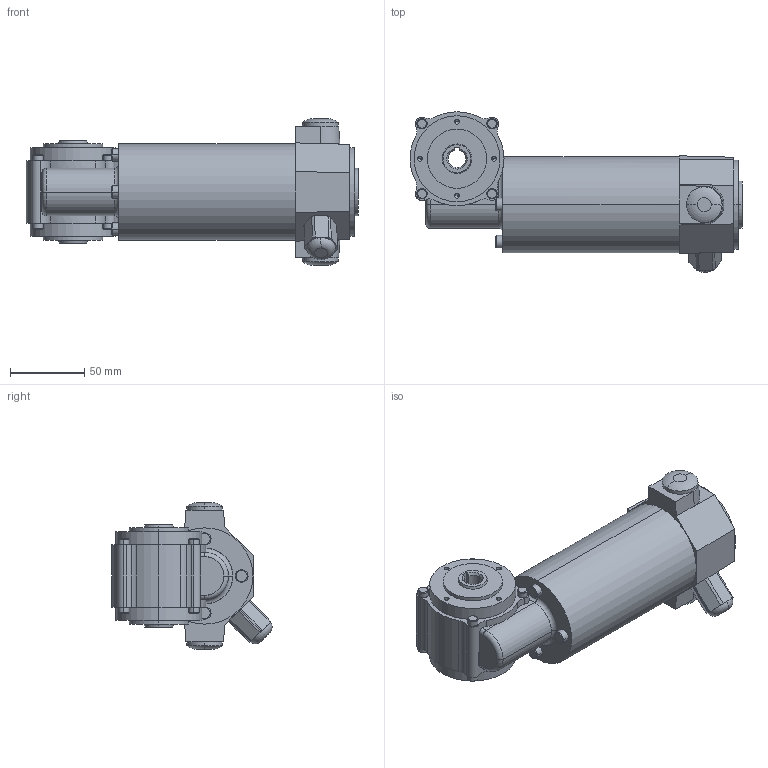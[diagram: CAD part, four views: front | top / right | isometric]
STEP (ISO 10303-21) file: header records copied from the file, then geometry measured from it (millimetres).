
FILE_DESCRIPTION(('OneSpaceDesigner STEP Export'),'2;1');
FILE_NAME('EPG04_GB12.stp','2009-09-14T11:10:39',(''),(''),'OneSpace Designer STEP processor (Jan. 2003) for AP214(CD)(Solid Model)','OneSpace Designer 12.01D 09-Jul-2004 (C) CoCreate Software GmbH','');
FILE_SCHEMA(('AUTOMOTIVE_DESIGN_CC2 {1 2 10303 214 -1 1 5 1}'));
Length unit declared in the file: millimetre
Products named in the file (2): EPG04_GB12
Assembly tree (1 placements, depth 2):
  EPG04_GB12
    EPG04_GB12
Bounding box: 224.25 x 108.33 x 99 mm (x, y, z)
Volume: 779969.1 mm3; surface area: 68448 mm2
Topology: 1 solids, 1 shells, 256 faces, 652 edges, 422 vertices
Faces by surface type: cylinder 124, plane 68, cone 48, torus 14, bspline 2
Entity records: 8765 total; most frequent: CARTESIAN_POINT 3319, ORIENTED_EDGE 1272, DIRECTION 908, EDGE_CURVE 636, VERTEX_POINT 422, AXIS2_PLACEMENT_3D 332, EDGE_LOOP 298, FACE_OUTER_BOUND 256
